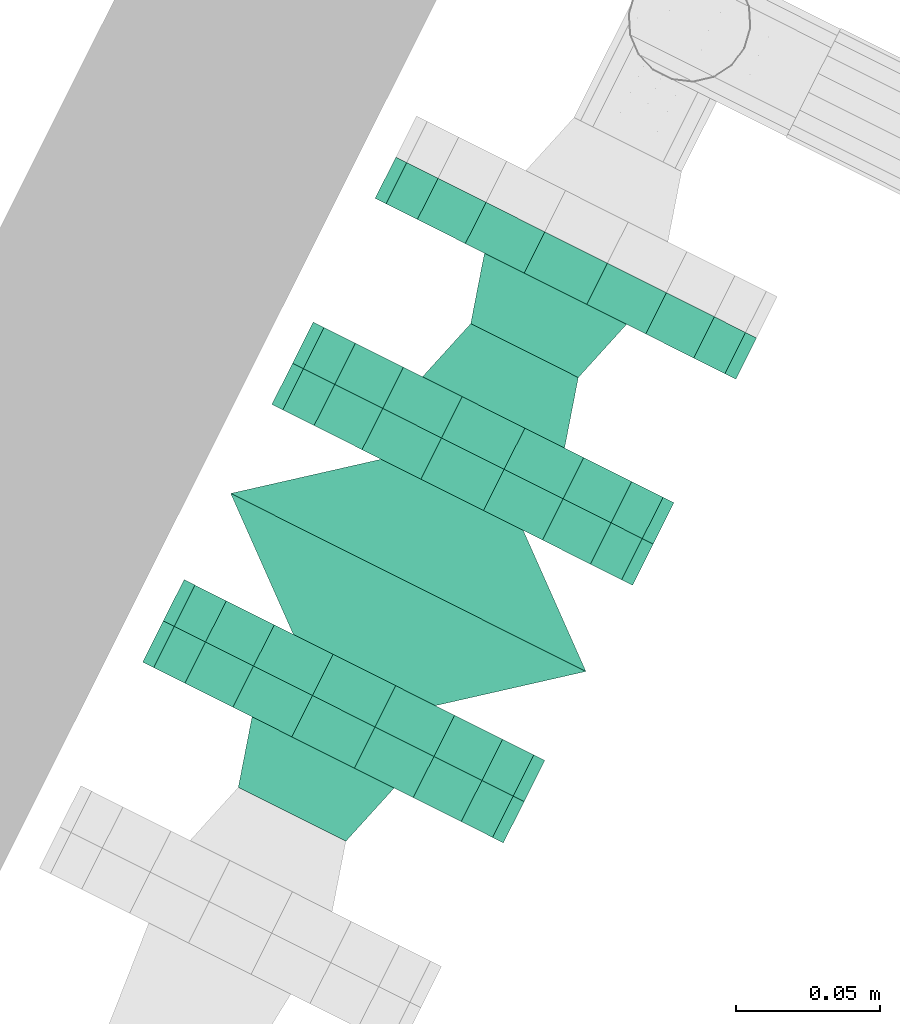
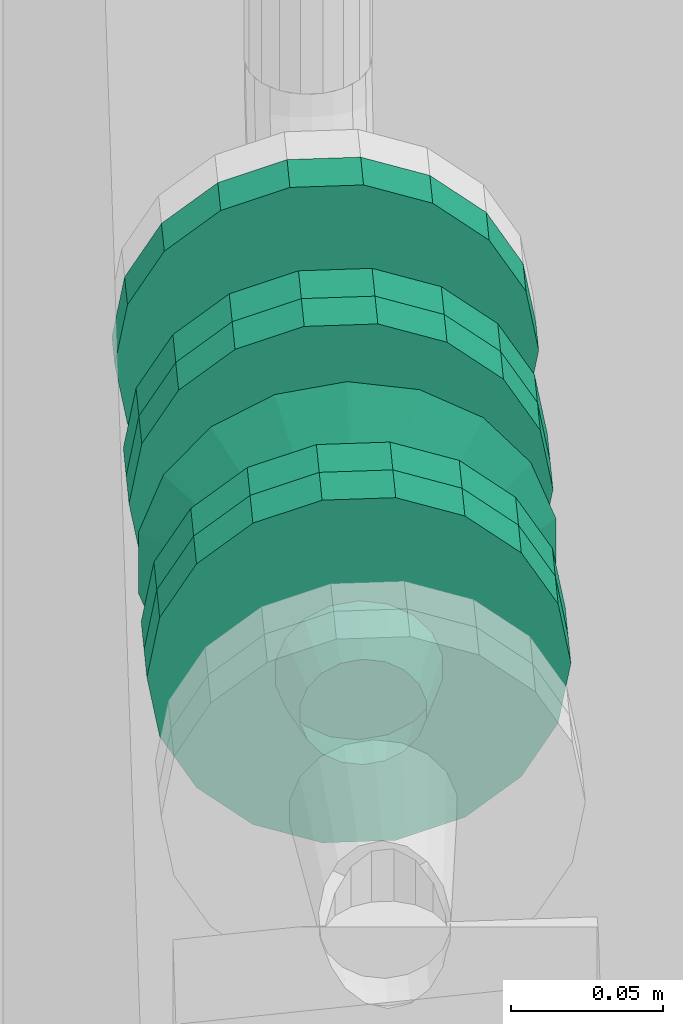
# One storey, part 147 of 206: 3 flow fittings, 1 flow segment.
"""IFC2X3 building model written with IfcOpenShell, lengths in metres."""

from ifc_helpers import new_model, si_unit, derived_unit, direction, frame, origin, place, context, subcontext, project, spatial, face_set, surface_model, source, transform, mapped, material, type_object, type_shapes, element, save


model = new_model("IFC2X3")

# Units and contexts
model_context = context("Model", 3, precision=5.2338327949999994e-05, world=origin(), true_north=direction((0.0, 1.0)))
body_context = subcontext(model_context, "Body", "Model", "MODEL_VIEW")
ifc_project = project(units=[si_unit("LENGTHUNIT", "METRE"), si_unit("AREAUNIT", "SQUARE_METRE"), si_unit("VOLUMEUNIT", "CUBIC_METRE"), si_unit("MASSUNIT", "GRAM", prefix="KILO"), si_unit("PLANEANGLEUNIT", "RADIAN"), derived_unit("THERMALTRANSMITTANCEUNIT", [(si_unit("MASSUNIT", "GRAM", prefix="KILO"), 1), (si_unit("THERMODYNAMICTEMPERATUREUNIT", "KELVIN"), -1), (si_unit("TIMEUNIT", "SECOND"), -3)])], contexts=[model_context])

# Site, building, storey
site_placement = place(None, frame((0.0, 0.0, 0.0), z_axis=(0.0, 0.0, 1.0), x_axis=(0.8939966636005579, -0.4480736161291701, 0.0)))
site = spatial("IfcSite", under=ifc_project, at=site_placement, Name="Default", CompositionType="ELEMENT")
building_placement = place(site_placement, origin())
building = spatial("IfcBuilding", under=site, at=building_placement, CompositionType="ELEMENT")
storey_placement = place(building_placement, origin())
storey = spatial("IfcBuildingStorey", under=building, at=storey_placement, Name="Erdgeschoss", CompositionType="ELEMENT", Elevation=0.0)

# Flow fitting
ifc_material = material(Name="IfcSurfaceStyle #352577")
distribution_element_type_1 = type_object("IfcDistributionElementType", Name="Flansch 610248:Flansch 610248", material=ifc_material)
shared_shape_1 = source(origin(), body_context, "Body", "SurfaceModel", [
    surface_model("IfcFaceBasedSurfaceModel", [(29.08181854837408, 9.415162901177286, 1.5628041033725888), (29.074567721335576, 9.415162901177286, 1.564082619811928), (29.072241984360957, 9.439162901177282, 1.5576927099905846), (29.08181854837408, 9.439162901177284, 1.5560041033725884), (29.06819145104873, 9.41516290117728, 1.567763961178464), (29.06382049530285, 9.43916290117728, 1.562554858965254), (29.063458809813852, 9.415162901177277, 1.573404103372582), (29.05756983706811, 9.439162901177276, 1.570004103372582), (29.060940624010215, 9.415162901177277, 1.58032276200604), (29.054243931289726, 9.439162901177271, 1.579141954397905), (29.06094062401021, 9.415162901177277, 1.5876854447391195), (29.054243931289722, 9.439162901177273, 1.5888662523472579), (29.06345880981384, 9.415162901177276, 1.594604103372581), (29.057569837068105, 9.439162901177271, 1.5980041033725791), (29.068191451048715, 9.415162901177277, 1.6002442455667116), (29.063820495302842, 9.439162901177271, 1.6054533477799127), (29.074567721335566, 9.415162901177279, 1.6039255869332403), (29.072241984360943, 9.439162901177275, 1.610315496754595), (29.081818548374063, 9.415162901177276, 1.6052041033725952), (29.08181854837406, 9.439162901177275, 1.612004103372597), (29.08906937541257, 9.41516290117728, 1.603925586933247), (29.091395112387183, 9.43916290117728, 1.6103154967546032), (29.095445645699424, 9.41516290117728, 1.6002442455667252), (29.099816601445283, 9.43916290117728, 1.6054533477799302), (29.1001782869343, 9.415162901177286, 1.5946041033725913), (29.10606725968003, 9.439162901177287, 1.5980041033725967), (29.102696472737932, 9.415162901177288, 1.587685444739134), (29.10939316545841, 9.439162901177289, 1.5888662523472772), (29.102696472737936, 9.41516290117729, 1.5803227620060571), (29.109393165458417, 9.439162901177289, 1.5791419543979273), (29.10017828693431, 9.41516290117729, 1.5734041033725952), (29.10606725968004, 9.439162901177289, 1.5700041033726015), (29.09544564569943, 9.41516290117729, 1.5677639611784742), (29.0998166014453, 9.43916290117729, 1.5625548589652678), (29.08906937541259, 9.41516290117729, 1.5640826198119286), (29.091395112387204, 9.439162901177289, 1.5576927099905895), (29.15181854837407, 9.4391629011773, 1.5840041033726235), (29.14759703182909, 9.439162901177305, 1.5600626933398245), (29.147597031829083, 9.455162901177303, 1.560062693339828), (29.15181854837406, 9.455162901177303, 1.584004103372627), (29.13544165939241, 9.439162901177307, 1.539008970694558), (29.13544165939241, 9.455162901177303, 1.5390089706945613), (29.116818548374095, 9.439162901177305, 1.5233823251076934), (29.116818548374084, 9.455162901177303, 1.523382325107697), (29.093973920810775, 9.439162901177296, 1.515067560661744), (29.093973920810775, 9.455162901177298, 1.5150675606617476), (29.06966317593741, 9.43916290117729, 1.5150675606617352), (29.069663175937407, 9.455162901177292, 1.515067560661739), (29.046818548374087, 9.439162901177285, 1.5233823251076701), (29.046818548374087, 9.455162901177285, 1.5233823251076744), (29.028195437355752, 9.439162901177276, 1.539008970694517), (29.028195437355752, 9.455162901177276, 1.5390089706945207), (29.01604006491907, 9.43916290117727, 1.5600626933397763), (29.01604006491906, 9.455162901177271, 1.56006269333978), (29.011818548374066, 9.439162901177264, 1.5840041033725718), (29.011818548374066, 9.455162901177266, 1.5840041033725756), (29.016040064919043, 9.439162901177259, 1.607945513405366), (29.016040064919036, 9.455162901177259, 1.6079455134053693), (29.028195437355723, 9.43916290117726, 1.6289992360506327), (29.028195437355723, 9.455162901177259, 1.6289992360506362), (29.046818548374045, 9.439162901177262, 1.6446258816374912), (29.04681854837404, 9.455162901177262, 1.644625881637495), (29.06966317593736, 9.439162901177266, 1.6529406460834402), (29.06966317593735, 9.455162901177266, 1.652940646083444), (29.09397392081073, 9.439162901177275, 1.6529406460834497), (29.09397392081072, 9.455162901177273, 1.6529406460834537), (29.11681854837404, 9.439162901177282, 1.6446258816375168), (29.116818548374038, 9.455162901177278, 1.6446258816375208), (29.135441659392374, 9.439162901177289, 1.6289992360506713), (29.135441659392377, 9.455162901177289, 1.628999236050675), (29.14759703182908, 9.439162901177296, 1.6079455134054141), (29.14759703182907, 9.455162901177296, 1.6079455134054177), (29.081818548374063, 9.439162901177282, 1.5840041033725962)], [face_set([[[0, 1, 2, 3]], [[1, 4, 5, 2]], [[4, 6, 7, 5]], [[6, 8, 9, 7]], [[8, 10, 11, 9]], [[10, 12, 13, 11]], [[12, 14, 15, 13]], [[14, 16, 17, 15]], [[16, 18, 19, 17]], [[18, 20, 21, 19]], [[20, 22, 23, 21]], [[22, 24, 25, 23]], [[24, 26, 27, 25]], [[26, 28, 29, 27]], [[28, 30, 31, 29]], [[30, 32, 33, 31]], [[32, 34, 35, 33]], [[34, 0, 3, 35]], [[36, 37, 38, 39]], [[37, 40, 41, 38]], [[40, 42, 43, 41]], [[42, 44, 45, 43]], [[44, 46, 47, 45]], [[46, 48, 49, 47]], [[48, 50, 51, 49]], [[50, 52, 53, 51]], [[52, 54, 55, 53]], [[54, 56, 57, 55]], [[56, 58, 59, 57]], [[58, 60, 61, 59]], [[60, 62, 63, 61]], [[62, 64, 65, 63]], [[64, 66, 67, 65]], [[66, 68, 69, 67]], [[68, 70, 71, 69]], [[70, 36, 39, 71]], [[72, 37, 36]], [[72, 40, 37]], [[72, 42, 40]], [[72, 44, 42]], [[72, 46, 44]], [[72, 48, 46]], [[72, 50, 48]], [[72, 52, 50]], [[72, 54, 52]], [[72, 56, 54]], [[72, 58, 56]], [[72, 60, 58]], [[72, 62, 60]], [[72, 64, 62]], [[72, 66, 64]], [[72, 68, 66]], [[72, 70, 68]], [[72, 36, 70]]])]),
])
type_shapes(distribution_element_type_1, [shared_shape_1])
flow_fitting_1_placement = place(storey_placement, origin())
element("IfcFlowFitting", 1, at=flow_fitting_1_placement, inside=storey, type_object=distribution_element_type_1, material=ifc_material, Name="Flansch", ObjectType="Flansch", context=body_context, shape_type="MappedRepresentation", body=[
    mapped(shared_shape_1, transform((0.0, 0.0, 0.0), scale=1.0)),
])

# Flow segment
distribution_element_type_2 = type_object("IfcDistributionElementType", Name="Gummikompensator 610271:Gummikompensator 610271", material=ifc_material)
shared_shape_2 = source(origin(), body_context, "Body", "SurfaceModel", [
    surface_model("IfcFaceBasedSurfaceModel", [(29.151818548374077, 9.455162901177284, 1.5840041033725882), (29.14759703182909, 9.455162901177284, 1.5600626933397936), (29.14759703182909, 9.471162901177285, 1.5600626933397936), (29.151818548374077, 9.471162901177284, 1.5840041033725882), (29.13544165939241, 9.455162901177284, 1.5390089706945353), (29.13544165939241, 9.471162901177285, 1.5390089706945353), (29.116818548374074, 9.455162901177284, 1.5233823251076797), (29.116818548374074, 9.471162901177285, 1.5233823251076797), (29.093973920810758, 9.455162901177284, 1.5150675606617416), (29.093973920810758, 9.471162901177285, 1.5150675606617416), (29.069663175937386, 9.455162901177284, 1.5150675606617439), (29.069663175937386, 9.471162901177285, 1.5150675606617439), (29.04681854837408, 9.455162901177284, 1.5233823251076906), (29.04681854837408, 9.471162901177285, 1.5233823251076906), (29.02819543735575, 9.455162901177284, 1.539008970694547), (29.02819543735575, 9.471162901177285, 1.539008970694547), (29.016040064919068, 9.455162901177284, 1.5600626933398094), (29.016040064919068, 9.471162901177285, 1.5600626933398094), (29.011818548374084, 9.455162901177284, 1.5840041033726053), (29.011818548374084, 9.471162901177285, 1.5840041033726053), (29.016040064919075, 9.455162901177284, 1.607945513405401), (29.016040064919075, 9.471162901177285, 1.607945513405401), (29.02819543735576, 9.455162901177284, 1.6289992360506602), (29.02819543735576, 9.471162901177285, 1.6289992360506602), (29.046818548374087, 9.455162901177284, 1.6446258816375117), (29.046818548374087, 9.471162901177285, 1.6446258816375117), (29.069663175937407, 9.455162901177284, 1.6529406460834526), (29.069663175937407, 9.471162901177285, 1.6529406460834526), (29.093973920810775, 9.455162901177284, 1.6529406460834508), (29.093973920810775, 9.471162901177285, 1.6529406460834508), (29.11681854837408, 9.455162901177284, 1.6446258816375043), (29.11681854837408, 9.471162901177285, 1.6446258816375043), (29.135441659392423, 9.455162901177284, 1.6289992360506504), (29.135441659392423, 9.471162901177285, 1.6289992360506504), (29.1475970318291, 9.455162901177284, 1.607945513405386), (29.1475970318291, 9.471162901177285, 1.607945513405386), (29.08181854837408, 9.471162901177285, 1.5840041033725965), (29.08181854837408, 9.455162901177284, 1.5840041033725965), (29.08181854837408, 9.471162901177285, 1.5560041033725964), (29.07224198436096, 9.471162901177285, 1.5576927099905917), (29.05787713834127, 9.505162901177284, 1.5182256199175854), (29.081818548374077, 9.505162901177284, 1.5140041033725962), (29.06382049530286, 9.471162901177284, 1.5625548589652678), (29.03682341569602, 9.505162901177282, 1.5303809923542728), (29.05756983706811, 9.471162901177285, 1.5700041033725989), (29.021196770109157, 9.505162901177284, 1.5490041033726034), (29.05424393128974, 9.471162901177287, 1.5791419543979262), (29.012882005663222, 9.505162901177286, 1.5718487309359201), (29.05424393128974, 9.471162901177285, 1.588866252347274), (29.012882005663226, 9.505162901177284, 1.5961594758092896), (29.05756983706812, 9.471162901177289, 1.598004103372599), (29.02119677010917, 9.505162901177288, 1.6190041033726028), (29.06382049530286, 9.471162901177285, 1.6054533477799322), (29.036823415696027, 9.505162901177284, 1.6376272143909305), (29.07224198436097, 9.471162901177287, 1.6103154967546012), (29.057877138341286, 9.505162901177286, 1.6497825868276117), (29.081818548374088, 9.471162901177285, 1.6120041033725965), (29.081818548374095, 9.505162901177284, 1.6540041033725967), (29.091395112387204, 9.471162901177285, 1.610315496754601), (29.105759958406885, 9.505162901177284, 1.6497825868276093), (29.099816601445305, 9.471162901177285, 1.6054533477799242), (29.126813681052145, 9.505162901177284, 1.6376272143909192), (29.10606725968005, 9.471162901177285, 1.5980041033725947), (29.142440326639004, 9.505162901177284, 1.6190041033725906), (29.109393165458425, 9.471162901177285, 1.588866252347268), (29.150755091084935, 9.505162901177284, 1.5961594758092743), (29.109393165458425, 9.471162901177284, 1.57914195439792), (29.15075509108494, 9.505162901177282, 1.5718487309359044), (29.106067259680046, 9.471162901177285, 1.5700041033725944), (29.142440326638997, 9.505162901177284, 1.5490041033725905), (29.0998166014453, 9.471162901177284, 1.5625548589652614), (29.126813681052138, 9.505162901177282, 1.5303809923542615), (29.0913951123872, 9.471162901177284, 1.5576927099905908), (29.10575995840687, 9.505162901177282, 1.51822561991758), (29.072241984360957, 9.539162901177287, 1.5576927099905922), (29.08181854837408, 9.539162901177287, 1.5560041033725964), (29.06382049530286, 9.539162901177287, 1.5625548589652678), (29.05756983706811, 9.539162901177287, 1.5700041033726), (29.05424393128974, 9.539162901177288, 1.579141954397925), (29.05424393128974, 9.539162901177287, 1.588866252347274), (29.05756983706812, 9.539162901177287, 1.5980041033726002), (29.06382049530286, 9.539162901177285, 1.6054533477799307), (29.072241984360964, 9.539162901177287, 1.610315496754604), (29.081818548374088, 9.539162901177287, 1.6120041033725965), (29.091395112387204, 9.539162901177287, 1.6103154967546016), (29.0998166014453, 9.539162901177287, 1.6054533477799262), (29.106067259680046, 9.539162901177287, 1.5980041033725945), (29.109393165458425, 9.539162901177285, 1.5888662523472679), (29.109393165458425, 9.539162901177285, 1.57914195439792), (29.10606725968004, 9.539162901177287, 1.5700041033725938), (29.0998166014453, 9.539162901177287, 1.5625548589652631), (29.0913951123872, 9.539162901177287, 1.5576927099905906), (29.151818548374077, 9.539162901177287, 1.5840041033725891), (29.14759703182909, 9.539162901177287, 1.5600626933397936), (29.14759703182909, 9.555162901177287, 1.5600626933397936), (29.151818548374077, 9.555162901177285, 1.5840041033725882), (29.13544165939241, 9.539162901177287, 1.5390089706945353), (29.13544165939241, 9.555162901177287, 1.5390089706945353), (29.116818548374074, 9.539162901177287, 1.5233823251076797), (29.116818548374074, 9.555162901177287, 1.5233823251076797), (29.093973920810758, 9.539162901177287, 1.5150675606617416), (29.093973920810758, 9.555162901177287, 1.5150675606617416), (29.069663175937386, 9.539162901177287, 1.5150675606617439), (29.069663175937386, 9.555162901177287, 1.5150675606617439), (29.04681854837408, 9.539162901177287, 1.5233823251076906), (29.04681854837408, 9.555162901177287, 1.5233823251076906), (29.02819543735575, 9.539162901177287, 1.539008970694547), (29.02819543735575, 9.555162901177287, 1.539008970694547), (29.016040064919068, 9.539162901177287, 1.5600626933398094), (29.016040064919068, 9.555162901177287, 1.5600626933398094), (29.011818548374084, 9.539162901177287, 1.5840041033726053), (29.011818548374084, 9.555162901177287, 1.5840041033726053), (29.016040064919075, 9.539162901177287, 1.607945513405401), (29.016040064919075, 9.555162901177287, 1.607945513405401), (29.02819543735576, 9.539162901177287, 1.6289992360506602), (29.02819543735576, 9.555162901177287, 1.6289992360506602), (29.046818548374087, 9.539162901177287, 1.6446258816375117), (29.046818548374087, 9.555162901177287, 1.6446258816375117), (29.069663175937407, 9.539162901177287, 1.6529406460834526), (29.069663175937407, 9.555162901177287, 1.6529406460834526), (29.093973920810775, 9.539162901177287, 1.6529406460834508), (29.093973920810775, 9.555162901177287, 1.6529406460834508), (29.11681854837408, 9.539162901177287, 1.6446258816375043), (29.11681854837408, 9.555162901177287, 1.6446258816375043), (29.135441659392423, 9.539162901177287, 1.6289992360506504), (29.135441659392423, 9.555162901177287, 1.6289992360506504), (29.1475970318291, 9.539162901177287, 1.607945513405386), (29.1475970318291, 9.555162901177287, 1.607945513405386), (29.08181854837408, 9.539162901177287, 1.5840041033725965), (29.08181854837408, 9.555162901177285, 1.5840041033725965)], [face_set([[[0, 1, 2, 3]], [[1, 4, 5, 2]], [[4, 6, 7, 5]], [[6, 8, 9, 7]], [[8, 10, 11, 9]], [[10, 12, 13, 11]], [[12, 14, 15, 13]], [[14, 16, 17, 15]], [[16, 18, 19, 17]], [[18, 20, 21, 19]], [[20, 22, 23, 21]], [[22, 24, 25, 23]], [[24, 26, 27, 25]], [[26, 28, 29, 27]], [[28, 30, 31, 29]], [[30, 32, 33, 31]], [[32, 34, 35, 33]], [[34, 0, 3, 35]], [[36, 35, 3]], [[36, 33, 35]], [[36, 31, 33]], [[36, 29, 31]], [[36, 27, 29]], [[36, 25, 27]], [[36, 23, 25]], [[36, 21, 23]], [[36, 19, 21]], [[36, 17, 19]], [[36, 15, 17]], [[36, 13, 15]], [[36, 11, 13]], [[36, 9, 11]], [[36, 7, 9]], [[36, 5, 7]], [[36, 2, 5]], [[36, 3, 2]], [[37, 1, 0]], [[37, 4, 1]], [[37, 6, 4]], [[37, 8, 6]], [[37, 10, 8]], [[37, 12, 10]], [[37, 14, 12]], [[37, 16, 14]], [[37, 18, 16]], [[37, 20, 18]], [[37, 22, 20]], [[37, 24, 22]], [[37, 26, 24]], [[37, 28, 26]], [[37, 30, 28]], [[37, 32, 30]], [[37, 34, 32]], [[37, 0, 34]], [[38, 39, 40, 41]], [[39, 42, 43, 40]], [[42, 44, 45, 43]], [[44, 46, 47, 45]], [[46, 48, 49, 47]], [[48, 50, 51, 49]], [[50, 52, 53, 51]], [[52, 54, 55, 53]], [[54, 56, 57, 55]], [[56, 58, 59, 57]], [[58, 60, 61, 59]], [[60, 62, 63, 61]], [[62, 64, 65, 63]], [[64, 66, 67, 65]], [[66, 68, 69, 67]], [[68, 70, 71, 69]], [[70, 72, 73, 71]], [[72, 38, 41, 73]], [[41, 40, 74, 75]], [[40, 43, 76, 74]], [[43, 45, 77, 76]], [[45, 47, 78, 77]], [[47, 49, 79, 78]], [[49, 51, 80, 79]], [[51, 53, 81, 80]], [[53, 55, 82, 81]], [[55, 57, 83, 82]], [[57, 59, 84, 83]], [[59, 61, 85, 84]], [[61, 63, 86, 85]], [[63, 65, 87, 86]], [[65, 67, 88, 87]], [[67, 69, 89, 88]], [[69, 71, 90, 89]], [[71, 73, 91, 90]], [[73, 41, 75, 91]], [[92, 93, 94, 95]], [[93, 96, 97, 94]], [[96, 98, 99, 97]], [[98, 100, 101, 99]], [[100, 102, 103, 101]], [[102, 104, 105, 103]], [[104, 106, 107, 105]], [[106, 108, 109, 107]], [[108, 110, 111, 109]], [[110, 112, 113, 111]], [[112, 114, 115, 113]], [[114, 116, 117, 115]], [[116, 118, 119, 117]], [[118, 120, 121, 119]], [[120, 122, 123, 121]], [[122, 124, 125, 123]], [[124, 126, 127, 125]], [[126, 92, 95, 127]], [[128, 93, 92]], [[128, 96, 93]], [[128, 98, 96]], [[128, 100, 98]], [[128, 102, 100]], [[128, 104, 102]], [[128, 106, 104]], [[128, 108, 106]], [[128, 110, 108]], [[128, 112, 110]], [[128, 114, 112]], [[128, 116, 114]], [[128, 118, 116]], [[128, 120, 118]], [[128, 122, 120]], [[128, 124, 122]], [[128, 126, 124]], [[128, 92, 126]], [[129, 127, 95]], [[129, 125, 127]], [[129, 123, 125]], [[129, 121, 123]], [[129, 119, 121]], [[129, 117, 119]], [[129, 115, 117]], [[129, 113, 115]], [[129, 111, 113]], [[129, 109, 111]], [[129, 107, 109]], [[129, 105, 107]], [[129, 103, 105]], [[129, 101, 103]], [[129, 99, 101]], [[129, 97, 99]], [[129, 94, 97]], [[129, 95, 94]]])]),
])
type_shapes(distribution_element_type_2, [shared_shape_2])
flow_segment_placement = place(storey_placement, origin())
element("IfcFlowSegment", 2, at=flow_segment_placement, inside=storey, type_object=distribution_element_type_2, material=ifc_material, Name="Gummikompensator", ObjectType="Gummikompensator", context=body_context, shape_type="MappedRepresentation", body=[
    mapped(shared_shape_2, transform((0.0, 0.0, 0.0), scale=1.0)),
])

# Flow fittings
distribution_element_type_3 = type_object("IfcDistributionElementType", Name="Flansch 610987:Flansch 610987", material=ifc_material)
shared_shape_3 = source(origin(), body_context, "Body", "SurfaceModel", [
    surface_model("IfcFaceBasedSurfaceModel", [(29.08181854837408, 9.595162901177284, 1.6052041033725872), (29.074567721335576, 9.595162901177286, 1.603925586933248), (29.072241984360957, 9.571162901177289, 1.6103154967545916), (29.08181854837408, 9.571162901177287, 1.6120041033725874), (29.06819145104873, 9.59516290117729, 1.6002442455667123), (29.06382049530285, 9.571162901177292, 1.605453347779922), (29.063458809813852, 9.595162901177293, 1.5946041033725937), (29.05756983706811, 9.571162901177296, 1.5980041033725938), (29.060940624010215, 9.595162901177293, 1.5876854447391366), (29.054243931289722, 9.5711629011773, 1.588866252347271), (29.060940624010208, 9.595162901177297, 1.580322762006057), (29.054243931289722, 9.571162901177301, 1.5791419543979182), (29.06345880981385, 9.595162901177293, 1.5734041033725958), (29.057569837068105, 9.571162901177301, 1.5700041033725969), (29.068191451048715, 9.595162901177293, 1.567763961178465), (29.063820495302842, 9.571162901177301, 1.5625548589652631), (29.074567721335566, 9.595162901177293, 1.564082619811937), (29.072241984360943, 9.571162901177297, 1.5576927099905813), (29.081818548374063, 9.595162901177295, 1.562804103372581), (29.08181854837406, 9.571162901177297, 1.5560041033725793), (29.08906937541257, 9.595162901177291, 1.5640826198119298), (29.091395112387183, 9.571162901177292, 1.5576927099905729), (29.095445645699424, 9.59516290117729, 1.567763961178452), (29.099816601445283, 9.571162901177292, 1.5625548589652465), (29.1001782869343, 9.595162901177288, 1.5734041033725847), (29.10606725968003, 9.571162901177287, 1.5700041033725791), (29.102696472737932, 9.595162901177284, 1.580322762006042), (29.10939316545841, 9.571162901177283, 1.5791419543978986), (29.102696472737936, 9.595162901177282, 1.5876854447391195), (29.109393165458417, 9.571162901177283, 1.5888662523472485), (29.10017828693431, 9.595162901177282, 1.5946041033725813), (29.10606725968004, 9.571162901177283, 1.598004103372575), (29.09544564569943, 9.595162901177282, 1.6002442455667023), (29.0998166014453, 9.571162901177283, 1.6054533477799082), (29.08906937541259, 9.595162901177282, 1.6039255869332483), (29.091395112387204, 9.571162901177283, 1.6103154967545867), (29.15181854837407, 9.57116290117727, 1.5840041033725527), (29.14759703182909, 9.571162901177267, 1.6079455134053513), (29.147597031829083, 9.555162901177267, 1.6079455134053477), (29.15181854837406, 9.555162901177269, 1.5840041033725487), (29.13544165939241, 9.571162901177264, 1.628999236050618), (29.13544165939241, 9.555162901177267, 1.628999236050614), (29.116818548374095, 9.571162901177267, 1.644625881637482), (29.116818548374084, 9.555162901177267, 1.6446258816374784), (29.093973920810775, 9.57116290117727, 1.6529406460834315), (29.093973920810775, 9.555162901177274, 1.6529406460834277), (29.06966317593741, 9.571162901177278, 1.6529406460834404), (29.069663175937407, 9.555162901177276, 1.6529406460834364), (29.046818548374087, 9.571162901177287, 1.6446258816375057), (29.046818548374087, 9.555162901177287, 1.6446258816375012), (29.028195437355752, 9.571162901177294, 1.6289992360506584), (29.028195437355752, 9.555162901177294, 1.6289992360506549), (29.01604006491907, 9.571162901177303, 1.6079455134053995), (29.01604006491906, 9.555162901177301, 1.607945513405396), (29.011818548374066, 9.571162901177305, 1.5840041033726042), (29.011818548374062, 9.555162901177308, 1.5840041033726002), (29.01604006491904, 9.571162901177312, 1.5600626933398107), (29.01604006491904, 9.555162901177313, 1.5600626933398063), (29.028195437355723, 9.571162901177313, 1.5390089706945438), (29.028195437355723, 9.555162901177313, 1.5390089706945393), (29.046818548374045, 9.571162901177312, 1.5233823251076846), (29.04681854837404, 9.55516290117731, 1.5233823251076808), (29.06966317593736, 9.571162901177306, 1.5150675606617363), (29.069663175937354, 9.555162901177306, 1.5150675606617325), (29.09397392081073, 9.5711629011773, 1.5150675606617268), (29.09397392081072, 9.555162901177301, 1.5150675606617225), (29.11681854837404, 9.571162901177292, 1.523382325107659), (29.116818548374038, 9.555162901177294, 1.523382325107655), (29.135441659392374, 9.571162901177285, 1.5390089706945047), (29.135441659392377, 9.555162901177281, 1.539008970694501), (29.147597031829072, 9.571162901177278, 1.5600626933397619), (29.147597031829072, 9.555162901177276, 1.560062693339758), (29.081818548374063, 9.571162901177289, 1.5840041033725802)], [face_set([[[0, 1, 2, 3]], [[1, 4, 5, 2]], [[4, 6, 7, 5]], [[6, 8, 9, 7]], [[8, 10, 11, 9]], [[10, 12, 13, 11]], [[12, 14, 15, 13]], [[14, 16, 17, 15]], [[16, 18, 19, 17]], [[18, 20, 21, 19]], [[20, 22, 23, 21]], [[22, 24, 25, 23]], [[24, 26, 27, 25]], [[26, 28, 29, 27]], [[28, 30, 31, 29]], [[30, 32, 33, 31]], [[32, 34, 35, 33]], [[34, 0, 3, 35]], [[36, 37, 38, 39]], [[37, 40, 41, 38]], [[40, 42, 43, 41]], [[42, 44, 45, 43]], [[44, 46, 47, 45]], [[46, 48, 49, 47]], [[48, 50, 51, 49]], [[50, 52, 53, 51]], [[52, 54, 55, 53]], [[54, 56, 57, 55]], [[56, 58, 59, 57]], [[58, 60, 61, 59]], [[60, 62, 63, 61]], [[62, 64, 65, 63]], [[64, 66, 67, 65]], [[66, 68, 69, 67]], [[68, 70, 71, 69]], [[70, 36, 39, 71]], [[72, 37, 36]], [[72, 40, 37]], [[72, 42, 40]], [[72, 44, 42]], [[72, 46, 44]], [[72, 48, 46]], [[72, 50, 48]], [[72, 52, 50]], [[72, 54, 52]], [[72, 56, 54]], [[72, 58, 56]], [[72, 60, 58]], [[72, 62, 60]], [[72, 64, 62]], [[72, 66, 64]], [[72, 68, 66]], [[72, 70, 68]], [[72, 36, 70]]])]),
])
type_shapes(distribution_element_type_3, [shared_shape_3])
flow_fitting_2_placement = place(storey_placement, origin())
element("IfcFlowFitting", 3, at=flow_fitting_2_placement, inside=storey, type_object=distribution_element_type_3, material=ifc_material, Name="Flansch", ObjectType="Flansch", context=body_context, shape_type="MappedRepresentation", body=[
    mapped(shared_shape_3, transform((0.0, 0.0, 0.0), scale=1.0)),
])
distribution_element_type_4 = type_object("IfcDistributionElementType", Name="Flansch 611010:Flansch 611010", material=ifc_material)
shared_shape_4 = source(origin(), body_context, "Body", "SurfaceModel", [
    surface_model("IfcFaceBasedSurfaceModel", [(29.08181854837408, 9.595162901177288, 1.5628041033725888), (29.074567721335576, 9.595162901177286, 1.564082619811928), (29.072241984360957, 9.619162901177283, 1.5576927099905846), (29.08181854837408, 9.619162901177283, 1.556004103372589), (29.06819145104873, 9.595162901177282, 1.5677639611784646), (29.06382049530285, 9.61916290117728, 1.5625548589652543), (29.063458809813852, 9.595162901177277, 1.5734041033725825), (29.05756983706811, 9.619162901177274, 1.5700041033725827), (29.060940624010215, 9.595162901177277, 1.5803227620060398), (29.054243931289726, 9.619162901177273, 1.579141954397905), (29.06094062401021, 9.595162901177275, 1.5876854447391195), (29.054243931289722, 9.61916290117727, 1.5888662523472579), (29.06345880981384, 9.595162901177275, 1.594604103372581), (29.057569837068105, 9.61916290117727, 1.5980041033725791), (29.068191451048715, 9.595162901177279, 1.6002442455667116), (29.063820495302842, 9.619162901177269, 1.6054533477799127), (29.074567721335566, 9.595162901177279, 1.6039255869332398), (29.072241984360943, 9.619162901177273, 1.6103154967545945), (29.081818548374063, 9.595162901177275, 1.6052041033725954), (29.08181854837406, 9.619162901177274, 1.612004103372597), (29.08906937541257, 9.59516290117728, 1.603925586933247), (29.091395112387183, 9.619162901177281, 1.6103154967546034), (29.095445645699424, 9.595162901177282, 1.600244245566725), (29.099816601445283, 9.61916290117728, 1.6054533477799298), (29.1001782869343, 9.595162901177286, 1.594604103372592), (29.10606725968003, 9.619162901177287, 1.5980041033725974), (29.102696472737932, 9.595162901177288, 1.587685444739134), (29.10939316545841, 9.619162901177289, 1.5888662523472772), (29.102696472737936, 9.595162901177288, 1.5803227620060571), (29.109393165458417, 9.619162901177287, 1.5791419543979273), (29.10017828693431, 9.59516290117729, 1.5734041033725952), (29.10606725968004, 9.619162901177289, 1.5700041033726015), (29.09544564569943, 9.59516290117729, 1.5677639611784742), (29.0998166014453, 9.619162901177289, 1.5625548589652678), (29.08906937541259, 9.59516290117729, 1.5640826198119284), (29.0913951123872, 9.619162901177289, 1.5576927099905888), (29.15181854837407, 9.619162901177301, 1.5840041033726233), (29.14759703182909, 9.619162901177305, 1.5600626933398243), (29.147597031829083, 9.635162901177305, 1.5600626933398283), (29.15181854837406, 9.635162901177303, 1.5840041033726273), (29.135441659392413, 9.619162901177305, 1.539008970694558), (29.135441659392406, 9.635162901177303, 1.5390089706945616), (29.116818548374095, 9.619162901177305, 1.5233823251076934), (29.116818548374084, 9.635162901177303, 1.523382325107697), (29.093973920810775, 9.619162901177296, 1.515067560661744), (29.093973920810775, 9.635162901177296, 1.5150675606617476), (29.06966317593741, 9.619162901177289, 1.5150675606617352), (29.069663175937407, 9.635162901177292, 1.515067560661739), (29.046818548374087, 9.619162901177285, 1.5233823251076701), (29.046818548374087, 9.635162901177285, 1.5233823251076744), (29.028195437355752, 9.619162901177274, 1.539008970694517), (29.028195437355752, 9.635162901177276, 1.5390089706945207), (29.01604006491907, 9.619162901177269, 1.560062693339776), (29.01604006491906, 9.63516290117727, 1.56006269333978), (29.011818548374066, 9.619162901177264, 1.5840041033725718), (29.011818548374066, 9.635162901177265, 1.5840041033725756), (29.016040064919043, 9.619162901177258, 1.607945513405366), (29.016040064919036, 9.63516290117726, 1.6079455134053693), (29.028195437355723, 9.61916290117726, 1.6289992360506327), (29.028195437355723, 9.63516290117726, 1.6289992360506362), (29.046818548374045, 9.619162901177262, 1.6446258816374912), (29.04681854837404, 9.635162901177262, 1.644625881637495), (29.06966317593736, 9.619162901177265, 1.6529406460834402), (29.06966317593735, 9.635162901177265, 1.652940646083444), (29.09397392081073, 9.619162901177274, 1.6529406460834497), (29.09397392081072, 9.635162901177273, 1.6529406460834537), (29.11681854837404, 9.619162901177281, 1.644625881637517), (29.116818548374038, 9.63516290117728, 1.6446258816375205), (29.135441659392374, 9.619162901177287, 1.6289992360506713), (29.135441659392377, 9.635162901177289, 1.628999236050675), (29.14759703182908, 9.619162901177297, 1.6079455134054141), (29.14759703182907, 9.635162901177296, 1.6079455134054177), (29.081818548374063, 9.619162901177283, 1.5840041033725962)], [face_set([[[0, 1, 2, 3]], [[1, 4, 5, 2]], [[4, 6, 7, 5]], [[6, 8, 9, 7]], [[8, 10, 11, 9]], [[10, 12, 13, 11]], [[12, 14, 15, 13]], [[14, 16, 17, 15]], [[16, 18, 19, 17]], [[18, 20, 21, 19]], [[20, 22, 23, 21]], [[22, 24, 25, 23]], [[24, 26, 27, 25]], [[26, 28, 29, 27]], [[28, 30, 31, 29]], [[30, 32, 33, 31]], [[32, 34, 35, 33]], [[34, 0, 3, 35]], [[36, 37, 38, 39]], [[37, 40, 41, 38]], [[40, 42, 43, 41]], [[42, 44, 45, 43]], [[44, 46, 47, 45]], [[46, 48, 49, 47]], [[48, 50, 51, 49]], [[50, 52, 53, 51]], [[52, 54, 55, 53]], [[54, 56, 57, 55]], [[56, 58, 59, 57]], [[58, 60, 61, 59]], [[60, 62, 63, 61]], [[62, 64, 65, 63]], [[64, 66, 67, 65]], [[66, 68, 69, 67]], [[68, 70, 71, 69]], [[70, 36, 39, 71]], [[72, 37, 36]], [[72, 40, 37]], [[72, 42, 40]], [[72, 44, 42]], [[72, 46, 44]], [[72, 48, 46]], [[72, 50, 48]], [[72, 52, 50]], [[72, 54, 52]], [[72, 56, 54]], [[72, 58, 56]], [[72, 60, 58]], [[72, 62, 60]], [[72, 64, 62]], [[72, 66, 64]], [[72, 68, 66]], [[72, 70, 68]], [[72, 36, 70]]])]),
])
type_shapes(distribution_element_type_4, [shared_shape_4])
flow_fitting_3_placement = place(storey_placement, origin())
element("IfcFlowFitting", 4, at=flow_fitting_3_placement, inside=storey, type_object=distribution_element_type_4, material=ifc_material, Name="Flansch", ObjectType="Flansch", context=body_context, shape_type="MappedRepresentation", body=[
    mapped(shared_shape_4, transform((0.0, 0.0, 0.0), scale=1.0)),
])

save(model, "model.ifc")
